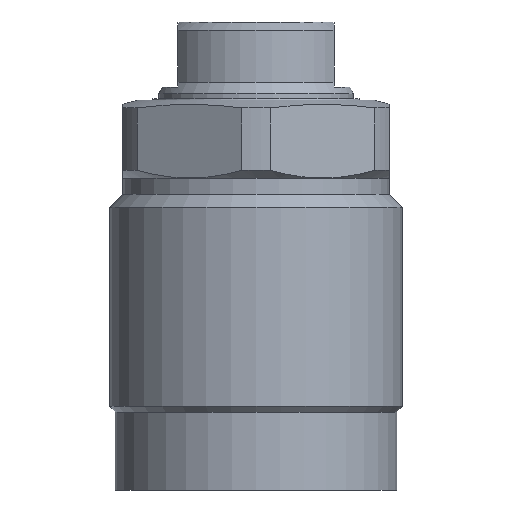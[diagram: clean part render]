
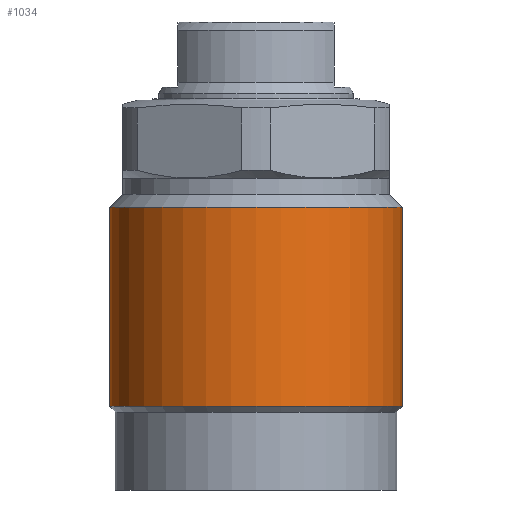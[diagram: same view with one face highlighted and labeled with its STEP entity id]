
A CAD part, front view. The second image highlights one B-rep face of the part: STEP entity #1034.
In plain terms, the highlighted cylindrical face has radius 22.5 mm (diameter 45 mm), a partial arc.
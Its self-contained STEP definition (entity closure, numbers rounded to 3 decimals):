
#971=CARTESIAN_POINT('',(-22.5,0.0,-47.15));
#972=VERTEX_POINT('',#971);
#980=CARTESIAN_POINT('',(22.5,0.0,-47.15));
#981=VERTEX_POINT('',#980);
#988=CARTESIAN_POINT('',(0.0,0.0,-47.15));
#989=DIRECTION('',(0.0,0.0,1.0));
#990=DIRECTION('',(1.0,0.0,0.0));
#991=AXIS2_PLACEMENT_3D('',#988,#989,#990);
#992=CIRCLE('',#991,22.5);
#993=EDGE_CURVE('no 1795',#972,#981,#992,.T.);
#1003=CARTESIAN_POINT('',(-22.5,0.0,-16.5));
#1004=VERTEX_POINT('',#1003);
#1005=CARTESIAN_POINT('',(-22.5,0.0,-47.15));
#1006=DIRECTION('',(0.0,-0.0,1.0));
#1007=VECTOR('',#1006,1.0);
#1008=LINE('',#1005,#1007);
#1009=EDGE_CURVE('no 1805',#972,#1004,#1008,.T.);
#1010=ORIENTED_EDGE('',*,*,#1009,.F.);
#1011=ORIENTED_EDGE('',*,*,#993,.T.);
#1012=CARTESIAN_POINT('',(22.5,0.0,-16.5));
#1013=VERTEX_POINT('',#1012);
#1014=CARTESIAN_POINT('',(22.5,0.0,-47.15));
#1015=DIRECTION('',(0.0,0.0,1.0));
#1016=VECTOR('',#1015,1.0);
#1017=LINE('',#1014,#1016);
#1018=EDGE_CURVE('no 1813',#981,#1013,#1017,.T.);
#1019=ORIENTED_EDGE('',*,*,#1018,.T.);
#1020=CARTESIAN_POINT('',(0.0,0.0,-16.5));
#1021=DIRECTION('',(0.0,0.0,1.0));
#1022=DIRECTION('',(1.0,0.0,0.0));
#1023=AXIS2_PLACEMENT_3D('',#1020,#1021,#1022);
#1024=CIRCLE('',#1023,22.5);
#1025=EDGE_CURVE('no 1817',#1004,#1013,#1024,.T.);
#1026=ORIENTED_EDGE('',*,*,#1025,.F.);
#1027=EDGE_LOOP('',(#1010,#1011,#1019,#1026));
#1028=FACE_OUTER_BOUND('',#1027,.T.);
#1029=CARTESIAN_POINT('',(0.0,0.0,5.219));
#1030=DIRECTION('',(0.0,0.0,1.0));
#1031=DIRECTION('',(0.0,1.0,0.0));
#1032=AXIS2_PLACEMENT_3D('',#1029,#1030,#1031);
#1033=CYLINDRICAL_SURFACE('',#1032,22.5);
#1034=ADVANCED_FACE('no 1798',(#1028),#1033,.T.);
